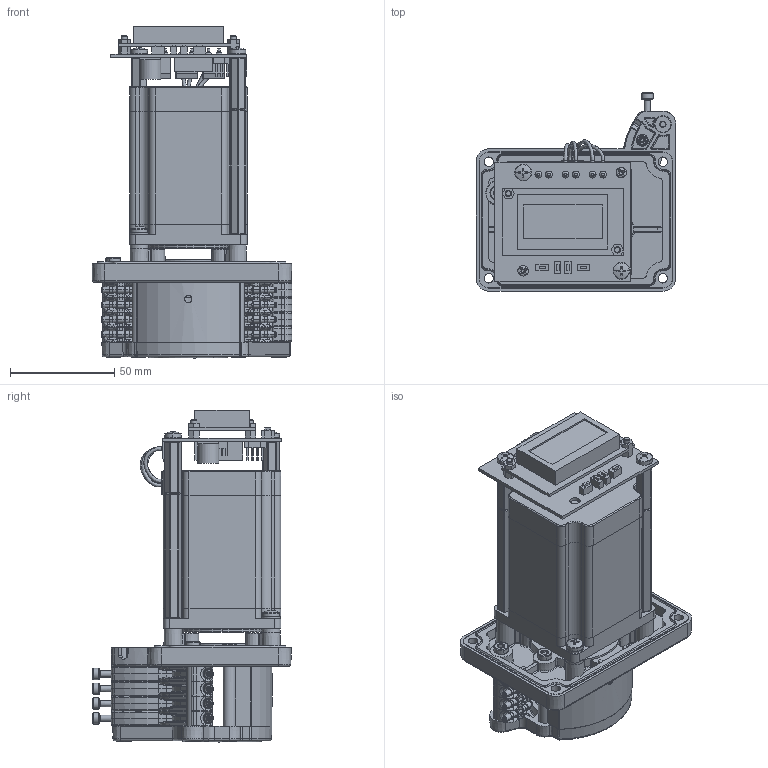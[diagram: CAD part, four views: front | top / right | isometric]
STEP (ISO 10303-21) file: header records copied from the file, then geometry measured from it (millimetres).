
FILE_DESCRIPTION (( 'STEP AP214' ), '1' );
FILE_NAME ('Assy_6K6001_IDs_R00.STEP', '2026-09-24T11:39:21', ( '' ), ( '' ), 'SwSTEP 2.0', 'SolidWorks 2021', '' );
FILE_SCHEMA (( 'AUTOMOTIVE_DESIGN' ));
Length unit declared in the file: millimetre
Products named in the file (1): Assy_6K6001_IDs_R00
Bounding box: 95.89 x 95.23 x 159.35 mm (x, y, z)
Volume: 340335.2 mm3; surface area: 116774.4 mm2
Topology: 9 solids, 38 shells, 3867 faces, 9250 edges, 5563 vertices
Faces by surface type: plane 1561, cylinder 895, bspline 573, cone 370, torus 287, sphere 181
Full cylindrical faces by diameter (mm): 1.3 x6, 1.35 x4, 1.6 x4, 1.8 x8, 2.5 x1, 2.8 x10, 3 x10, 3.02 x6, 3.2 x10, 3.4 x2, 4 x2, 4.022 x2, 4.5 x4, 5 x4, 5.5 x4, 6 x3, 6.05 x1, 6.1 x5, 7.5 x4, 8 x2, 8.55 x4, 10 x1, 10.2 x1, 24 x1
Entity records: 132063 total; most frequent: CARTESIAN_POINT 49850, ORIENTED_EDGE 17748, DIRECTION 15816, EDGE_CURVE 8874, AXIS2_PLACEMENT_3D 5849, VERTEX_POINT 5439, EDGE_LOOP 4317, LINE 4118
